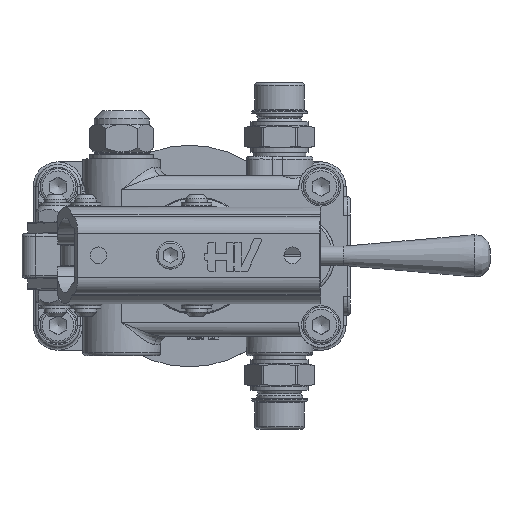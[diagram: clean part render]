
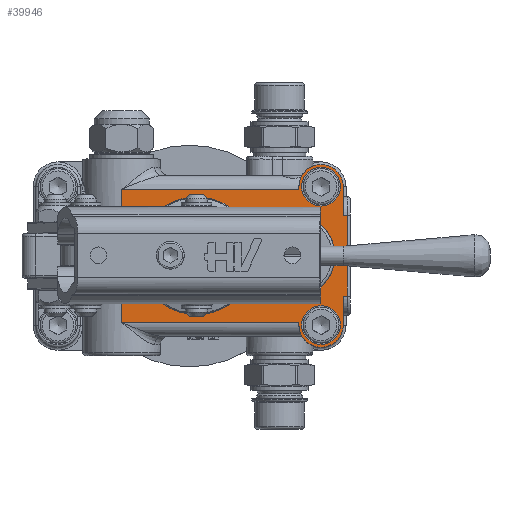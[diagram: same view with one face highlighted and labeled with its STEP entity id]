
A CAD part, top view. The second image highlights one B-rep face of the part: STEP entity #39946.
In plain terms, the highlighted planar face has unit normal (0, 0, 1).
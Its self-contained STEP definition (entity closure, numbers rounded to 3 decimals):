
#17875=CARTESIAN_POINT('',(72.852,47.007,43.));
#17876=VERTEX_POINT('',#17875);
#17877=CARTESIAN_POINT('',(59.,34.,43.0));
#17878=DIRECTION('',(0.,0.,-1.0));
#17879=DIRECTION('',(-0.729,-0.685,0.));
#17880=AXIS2_PLACEMENT_3D('',#17877,#17878,#17879);
#17881=CIRCLE('',#17880,19.002);
#17882=EDGE_CURVE('',#17876,#17876,#17881,.T.);
#38289=CARTESIAN_POINT('',(96.,58.,43.));
#38290=VERTEX_POINT('',#38289);
#38298=CARTESIAN_POINT('',(96.,59.,43.));
#38299=VERTEX_POINT('',#38298);
#38300=CARTESIAN_POINT('',(96.,58.,43.));
#38301=DIRECTION('',(0.0,1.0,0.0));
#38302=VECTOR('',#38301,1.);
#38303=LINE('',#38300,#38302);
#38304=EDGE_CURVE('',#38290,#38299,#38303,.T.);
#38320=CARTESIAN_POINT('',(96.0,10.0,43.));
#38321=VERTEX_POINT('',#38320);
#38331=CARTESIAN_POINT('',(96.0,9.,43.));
#38332=VERTEX_POINT('',#38331);
#38339=CARTESIAN_POINT('',(96.,9.,43.));
#38340=DIRECTION('',(0.0,1.0,0.0));
#38341=VECTOR('',#38340,1.);
#38342=LINE('',#38339,#38341);
#38343=EDGE_CURVE('',#38332,#38321,#38342,.T.);
#38502=CARTESIAN_POINT('',(32.,44.122,43.));
#38503=VERTEX_POINT('',#38502);
#38552=CARTESIAN_POINT('',(33.732,41.0,43.));
#38553=VERTEX_POINT('',#38552);
#38561=CARTESIAN_POINT('',(33.732,41.0,43.));
#38562=CARTESIAN_POINT('',(33.732,41.528,43.));
#38563=CARTESIAN_POINT('',(33.438,42.767,43.));
#38564=CARTESIAN_POINT('',(32.582,43.719,43.));
#38565=CARTESIAN_POINT('',(32.,44.122,43.));
#38566=B_SPLINE_CURVE_WITH_KNOTS('',3,(#38561,#38562,#38563,#38564,#38565),.UNSPECIFIED.,.F.,.U.,(4,1,4),(2.696,2.855,3.066),.UNSPECIFIED.);
#38567=EDGE_CURVE('',#38553,#38503,#38566,.T.);
#38579=CARTESIAN_POINT('',(33.732,27.,43.));
#38580=VERTEX_POINT('',#38579);
#38588=CARTESIAN_POINT('',(33.732,27.,43.));
#38589=DIRECTION('',(0.0,1.0,0.0));
#38590=VECTOR('',#38589,14.);
#38591=LINE('',#38588,#38590);
#38592=EDGE_CURVE('',#38580,#38553,#38591,.T.);
#38625=CARTESIAN_POINT('',(32.,23.878,43.));
#38626=VERTEX_POINT('',#38625);
#38634=CARTESIAN_POINT('',(32.,23.878,43.));
#38635=CARTESIAN_POINT('',(32.433,24.178,43.));
#38636=CARTESIAN_POINT('',(33.336,25.067,43.));
#38637=CARTESIAN_POINT('',(33.732,26.29,43.0));
#38638=CARTESIAN_POINT('',(33.732,27.,43.));
#38639=B_SPLINE_CURVE_WITH_KNOTS('',3,(#38634,#38635,#38636,#38637,#38638),.UNSPECIFIED.,.F.,.U.,(4,1,4),(2.696,2.854,3.065),.UNSPECIFIED.);
#38640=EDGE_CURVE('',#38626,#38580,#38639,.T.);
#39344=CARTESIAN_POINT('',(112.0,59.,43.));
#39345=VERTEX_POINT('',#39344);
#39352=CARTESIAN_POINT('',(112.,48.5,43.));
#39353=VERTEX_POINT('',#39352);
#39354=CARTESIAN_POINT('',(112.0,59.,43.));
#39355=DIRECTION('',(0.0,-1.0,0.0));
#39356=VECTOR('',#39355,10.5);
#39357=LINE('',#39354,#39356);
#39358=EDGE_CURVE('',#39345,#39353,#39357,.T.);
#39473=CARTESIAN_POINT('',(112.0,19.5,43.));
#39474=VERTEX_POINT('',#39473);
#39482=CARTESIAN_POINT('',(112.,9.,43.));
#39483=VERTEX_POINT('',#39482);
#39484=CARTESIAN_POINT('',(112.,19.5,43.));
#39485=DIRECTION('',(0.0,-1.0,0.0));
#39486=VECTOR('',#39485,10.5);
#39487=LINE('',#39484,#39486);
#39488=EDGE_CURVE('',#39474,#39483,#39487,.T.);
#39811=CARTESIAN_POINT('',(113.5,48.5,43.));
#39812=VERTEX_POINT('',#39811);
#39822=CARTESIAN_POINT('',(112.,48.5,43.));
#39823=DIRECTION('',(1.0,0.0,0.0));
#39824=VECTOR('',#39823,1.5);
#39825=LINE('',#39822,#39824);
#39826=EDGE_CURVE('',#39353,#39812,#39825,.T.);
#39831=CARTESIAN_POINT('',(104.,34.,43.));
#39832=DIRECTION('',(0.0,0.0,1.0));
#39833=DIRECTION('',(1.0,0.0,0.0));
#39834=AXIS2_PLACEMENT_3D('',#39831,#39832,#39833);
#39835=PLANE('',#39834);
#39836=CARTESIAN_POINT('',(113.5,19.5,43.));
#39837=VERTEX_POINT('',#39836);
#39838=CARTESIAN_POINT('',(113.5,48.5,43.));
#39839=DIRECTION('',(0.0,-1.0,0.0));
#39840=VECTOR('',#39839,29.);
#39841=LINE('',#39838,#39840);
#39842=EDGE_CURVE('',#39812,#39837,#39841,.T.);
#39843=ORIENTED_EDGE('',*,*,#39842,.F.);
#39844=ORIENTED_EDGE('',*,*,#39826,.F.);
#39845=ORIENTED_EDGE('',*,*,#39358,.F.);
#39846=CARTESIAN_POINT('',(104.,59.,43.));
#39847=DIRECTION('',(0.0,0.0,-1.0));
#39848=DIRECTION('',(1.0,0.0,0.0));
#39849=AXIS2_PLACEMENT_3D('',#39846,#39847,#39848);
#39850=CIRCLE('',#39849,8.0);
#39851=EDGE_CURVE('',#38299,#39345,#39850,.T.);
#39852=ORIENTED_EDGE('',*,*,#39851,.F.);
#39853=ORIENTED_EDGE('',*,*,#38304,.F.);
#39854=CARTESIAN_POINT('',(32.,58.,43.));
#39855=VERTEX_POINT('',#39854);
#39856=CARTESIAN_POINT('',(96.,58.,43.));
#39857=DIRECTION('',(-1.0,0.0,0.0));
#39858=VECTOR('',#39857,64.);
#39859=LINE('',#39856,#39858);
#39860=EDGE_CURVE('',#38290,#39855,#39859,.T.);
#39861=ORIENTED_EDGE('',*,*,#39860,.T.);
#39862=CARTESIAN_POINT('',(32.0,44.122,43.0));
#39863=DIRECTION('',(0.0,1.0,0.0));
#39864=VECTOR('',#39863,13.878);
#39865=LINE('',#39862,#39864);
#39866=EDGE_CURVE('',#38503,#39855,#39865,.T.);
#39867=ORIENTED_EDGE('',*,*,#39866,.F.);
#39868=ORIENTED_EDGE('',*,*,#38567,.F.);
#39869=ORIENTED_EDGE('',*,*,#38592,.F.);
#39870=ORIENTED_EDGE('',*,*,#38640,.F.);
#39871=CARTESIAN_POINT('',(32.,10.0,43.));
#39872=VERTEX_POINT('',#39871);
#39873=CARTESIAN_POINT('',(32.0,10.,43.0));
#39874=DIRECTION('',(0.0,1.0,0.0));
#39875=VECTOR('',#39874,13.878);
#39876=LINE('',#39873,#39875);
#39877=EDGE_CURVE('',#39872,#38626,#39876,.T.);
#39878=ORIENTED_EDGE('',*,*,#39877,.F.);
#39879=CARTESIAN_POINT('',(96.0,10.0,43.));
#39880=DIRECTION('',(-1.0,0.0,0.0));
#39881=VECTOR('',#39880,64.);
#39882=LINE('',#39879,#39881);
#39883=EDGE_CURVE('',#38321,#39872,#39882,.T.);
#39884=ORIENTED_EDGE('',*,*,#39883,.F.);
#39885=ORIENTED_EDGE('',*,*,#38343,.F.);
#39886=CARTESIAN_POINT('',(104.0,9.,43.));
#39887=DIRECTION('',(0.0,0.0,-1.0));
#39888=DIRECTION('',(-1.0,0.0,0.0));
#39889=AXIS2_PLACEMENT_3D('',#39886,#39887,#39888);
#39890=CIRCLE('',#39889,8.0);
#39891=EDGE_CURVE('',#39483,#38332,#39890,.T.);
#39892=ORIENTED_EDGE('',*,*,#39891,.F.);
#39893=ORIENTED_EDGE('',*,*,#39488,.F.);
#39894=CARTESIAN_POINT('',(112.0,19.5,43.));
#39895=DIRECTION('',(1.0,0.0,0.0));
#39896=VECTOR('',#39895,1.5);
#39897=LINE('',#39894,#39896);
#39898=EDGE_CURVE('',#39474,#39837,#39897,.T.);
#39899=ORIENTED_EDGE('',*,*,#39898,.T.);
#39900=EDGE_LOOP('',(#39843,#39844,#39845,#39852,#39853,#39861,#39867,#39868,#39869,#39870,#39878,#39884,#39885,#39892,#39893,#39899));
#39901=FACE_OUTER_BOUND('',#39900,.T.);
#39902=ORIENTED_EDGE('',*,*,#17882,.T.);
#39903=EDGE_LOOP('',(#39902));
#39904=FACE_BOUND('',#39903,.T.);
#39905=CARTESIAN_POINT('',(111.,59.,43.));
#39906=VERTEX_POINT('',#39905);
#39907=CARTESIAN_POINT('',(104.,59.,43.));
#39908=DIRECTION('',(0.0,0.0,-1.0));
#39909=DIRECTION('',(1.0,0.0,0.0));
#39910=AXIS2_PLACEMENT_3D('',#39907,#39908,#39909);
#39911=CIRCLE('',#39910,7.);
#39912=EDGE_CURVE('',#39906,#39906,#39911,.T.);
#39913=ORIENTED_EDGE('',*,*,#39912,.T.);
#39914=EDGE_LOOP('',(#39913));
#39915=FACE_BOUND('',#39914,.T.);
#39916=CARTESIAN_POINT('',(111.0,9.,43.));
#39917=VERTEX_POINT('',#39916);
#39918=CARTESIAN_POINT('',(104.0,9.,43.));
#39919=DIRECTION('',(0.0,0.0,-1.0));
#39920=DIRECTION('',(1.0,0.0,0.0));
#39921=AXIS2_PLACEMENT_3D('',#39918,#39919,#39920);
#39922=CIRCLE('',#39921,7.);
#39923=EDGE_CURVE('',#39917,#39917,#39922,.T.);
#39924=ORIENTED_EDGE('',*,*,#39923,.T.);
#39925=EDGE_LOOP('',(#39924));
#39926=FACE_BOUND('',#39925,.T.);
#39927=CARTESIAN_POINT('',(83.0,44.198,43.));
#39928=VERTEX_POINT('',#39927);
#39929=CARTESIAN_POINT('',(83.0,23.802,43.));
#39930=VERTEX_POINT('',#39929);
#39931=CARTESIAN_POINT('',(94.,34.0,43.));
#39932=DIRECTION('',(0.0,0.0,-1.0));
#39933=DIRECTION('',(-1.0,0.0,0.0));
#39934=AXIS2_PLACEMENT_3D('',#39931,#39932,#39933);
#39935=CIRCLE('',#39934,15.0);
#39936=EDGE_CURVE('',#39928,#39930,#39935,.T.);
#39937=ORIENTED_EDGE('',*,*,#39936,.T.);
#39938=CARTESIAN_POINT('',(83.0,23.802,43.));
#39939=DIRECTION('',(0.0,1.0,0.0));
#39940=VECTOR('',#39939,20.396);
#39941=LINE('',#39938,#39940);
#39942=EDGE_CURVE('',#39930,#39928,#39941,.T.);
#39943=ORIENTED_EDGE('',*,*,#39942,.T.);
#39944=EDGE_LOOP('',(#39937,#39943));
#39945=FACE_BOUND('',#39944,.T.);
#39946=ADVANCED_FACE('',(#39901,#39904,#39915,#39926,#39945),#39835,.T.);
